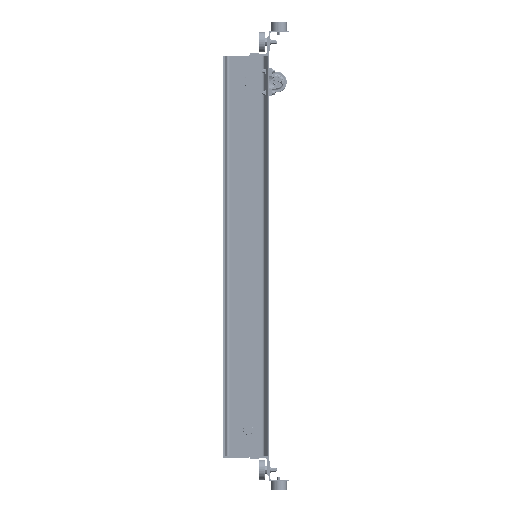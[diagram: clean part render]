
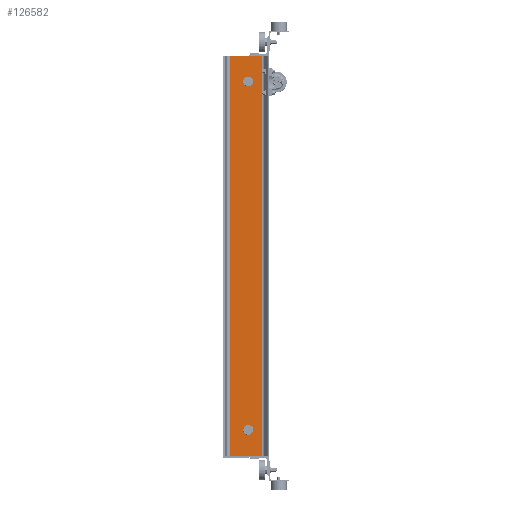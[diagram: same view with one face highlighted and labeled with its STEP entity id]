
A CAD part, left-side view. The second image highlights one B-rep face of the part: STEP entity #126582.
In plain terms, the highlighted planar face has unit normal (-1, 0, 0) as drawn and (1, 0, 0) by its records, which use the part's own axes.
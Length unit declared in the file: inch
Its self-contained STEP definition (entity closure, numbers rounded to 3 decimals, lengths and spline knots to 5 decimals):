
#3242 = EDGE_LOOP ( 'NONE', ( #43877, #53252, #7472, #68993 ) ) ;
#5058 = DIRECTION ( 'NONE',  ( 0., 0., -1. ) ) ;
#7472 = ORIENTED_EDGE ( 'NONE', *, *, #27646, .T. ) ;
#13037 = ORIENTED_EDGE ( 'NONE', *, *, #70173, .T. ) ;
#15460 = CARTESIAN_POINT ( 'NONE',  ( 0.353, 3.622, -30.6 ) ) ;
#16015 = AXIS2_PLACEMENT_3D ( 'NONE', #17937, #103600, #92341 ) ;
#17937 = CARTESIAN_POINT ( 'NONE',  ( 0.353, 6.85768, 35. ) ) ;
#19631 = EDGE_LOOP ( 'NONE', ( #128323, #13037 ) ) ;
#19979 = FACE_OUTER_BOUND ( 'NONE', #3242, .T. ) ;
#20350 = LINE ( 'NONE', #94781, #137001 ) ;
#22102 = VERTEX_POINT ( 'NONE', #97840 ) ;
#26331 = VECTOR ( 'NONE', #5058, 39.37008 ) ;
#26696 = DIRECTION ( 'NONE',  ( -1., 0., 0. ) ) ;
#27646 = EDGE_CURVE ( 'NONE', #121146, #79243, #20350, .T. ) ;
#31466 = EDGE_CURVE ( 'NONE', #121146, #67812, #92612, .T. ) ;
#31474 = DIRECTION ( 'NONE',  ( 0., 0., -1. ) ) ;
#33611 = AXIS2_PLACEMENT_3D ( 'NONE', #130622, #107471, #54047 ) ;
#34063 = EDGE_CURVE ( 'NONE', #22102, #61350, #103928, .T. ) ;
#35589 = VERTEX_POINT ( 'NONE', #65505 ) ;
#35868 = DIRECTION ( 'NONE',  ( 0., -1., 0. ) ) ;
#37962 = LINE ( 'NONE', #120841, #45863 ) ;
#39264 = CARTESIAN_POINT ( 'NONE',  ( 0.353, 6.85768, 35. ) ) ;
#40094 = LINE ( 'NONE', #48558, #26331 ) ;
#43316 = AXIS2_PLACEMENT_3D ( 'NONE', #15460, #26696, #132046 ) ;
#43469 = DIRECTION ( 'NONE',  ( 0., -1., 0. ) ) ;
#43877 = ORIENTED_EDGE ( 'NONE', *, *, #103448, .F. ) ;
#45863 = VECTOR ( 'NONE', #35868, 39.37008 ) ;
#48467 = DIRECTION ( 'NONE',  ( -1., 0., 0. ) ) ;
#48558 = CARTESIAN_POINT ( 'NONE',  ( 0.353, 1.14232, 35. ) ) ;
#51289 = CARTESIAN_POINT ( 'NONE',  ( 0.353, 3.622, 29.711 ) ) ;
#51866 = CARTESIAN_POINT ( 'NONE',  ( 0.353, 6.85768, 35. ) ) ;
#52243 = PLANE ( 'NONE',  #16015 ) ;
#53252 = ORIENTED_EDGE ( 'NONE', *, *, #31466, .F. ) ;
#54047 = DIRECTION ( 'NONE',  ( 0., 1., 0. ) ) ;
#58269 = CIRCLE ( 'NONE', #33611, 0.789 ) ;
#59017 = CARTESIAN_POINT ( 'NONE',  ( 0.353, 3.622, 30.5 ) ) ;
#59504 = CARTESIAN_POINT ( 'NONE',  ( 0.353, 6.85768, -35. ) ) ;
#61350 = VERTEX_POINT ( 'NONE', #74178 ) ;
#61755 = CIRCLE ( 'NONE', #138081, 0.789 ) ;
#62084 = FACE_BOUND ( 'NONE', #94100, .T. ) ;
#63453 = EDGE_CURVE ( 'NONE', #79243, #80303, #40094, .T. ) ;
#65505 = CARTESIAN_POINT ( 'NONE',  ( 0.353, 3.622, 31.289 ) ) ;
#67812 = VERTEX_POINT ( 'NONE', #59504 ) ;
#68993 = ORIENTED_EDGE ( 'NONE', *, *, #63453, .T. ) ;
#69967 = DIRECTION ( 'NONE',  ( -1., 0., 0. ) ) ;
#70173 = EDGE_CURVE ( 'NONE', #72227, #35589, #58269, .T. ) ;
#72227 = VERTEX_POINT ( 'NONE', #51289 ) ;
#74178 = CARTESIAN_POINT ( 'NONE',  ( 0.353, 3.622, -29.811 ) ) ;
#79243 = VERTEX_POINT ( 'NONE', #93081 ) ;
#79474 = CARTESIAN_POINT ( 'NONE',  ( 0.353, 1.14232, -35. ) ) ;
#80303 = VERTEX_POINT ( 'NONE', #79474 ) ;
#83188 = FACE_BOUND ( 'NONE', #19631, .T. ) ;
#85220 = ORIENTED_EDGE ( 'NONE', *, *, #34063, .T. ) ;
#88001 = EDGE_CURVE ( 'NONE', #61350, #22102, #61755, .T. ) ;
#92341 = DIRECTION ( 'NONE',  ( 0., 1., 0. ) ) ;
#92612 = LINE ( 'NONE', #39264, #135114 ) ;
#92775 = AXIS2_PLACEMENT_3D ( 'NONE', #59017, #48467, #101873 ) ;
#93081 = CARTESIAN_POINT ( 'NONE',  ( 0.353, 1.14232, 35. ) ) ;
#94100 = EDGE_LOOP ( 'NONE', ( #111984, #85220 ) ) ;
#94781 = CARTESIAN_POINT ( 'NONE',  ( 0.353, 6.85768, 35. ) ) ;
#97840 = CARTESIAN_POINT ( 'NONE',  ( 0.353, 3.622, -31.389 ) ) ;
#101873 = DIRECTION ( 'NONE',  ( 0., 1., 0. ) ) ;
#103448 = EDGE_CURVE ( 'NONE', #67812, #80303, #37962, .T. ) ;
#103600 = DIRECTION ( 'NONE',  ( 1., 0., 0. ) ) ;
#103928 = CIRCLE ( 'NONE', #43316, 0.789 ) ;
#107471 = DIRECTION ( 'NONE',  ( -1., 0., 0. ) ) ;
#111984 = ORIENTED_EDGE ( 'NONE', *, *, #88001, .T. ) ;
#113530 = CARTESIAN_POINT ( 'NONE',  ( 0.353, 3.622, -30.6 ) ) ;
#120841 = CARTESIAN_POINT ( 'NONE',  ( 0.353, 6.85768, -35. ) ) ;
#121146 = VERTEX_POINT ( 'NONE', #51866 ) ;
#126462 = CIRCLE ( 'NONE', #92775, 0.789 ) ;
#126582 = ADVANCED_FACE ( 'NONE', ( #83188, #19979, #62084 ), #52243, .T. ) ;
#128323 = ORIENTED_EDGE ( 'NONE', *, *, #132790, .T. ) ;
#130622 = CARTESIAN_POINT ( 'NONE',  ( 0.353, 3.622, 30.5 ) ) ;
#132046 = DIRECTION ( 'NONE',  ( 0., 1., 0. ) ) ;
#132790 = EDGE_CURVE ( 'NONE', #35589, #72227, #126462, .T. ) ;
#135114 = VECTOR ( 'NONE', #31474, 39.37008 ) ;
#135302 = DIRECTION ( 'NONE',  ( 0., 1., 0. ) ) ;
#137001 = VECTOR ( 'NONE', #43469, 39.37008 ) ;
#138081 = AXIS2_PLACEMENT_3D ( 'NONE', #113530, #69967, #135302 ) ;
